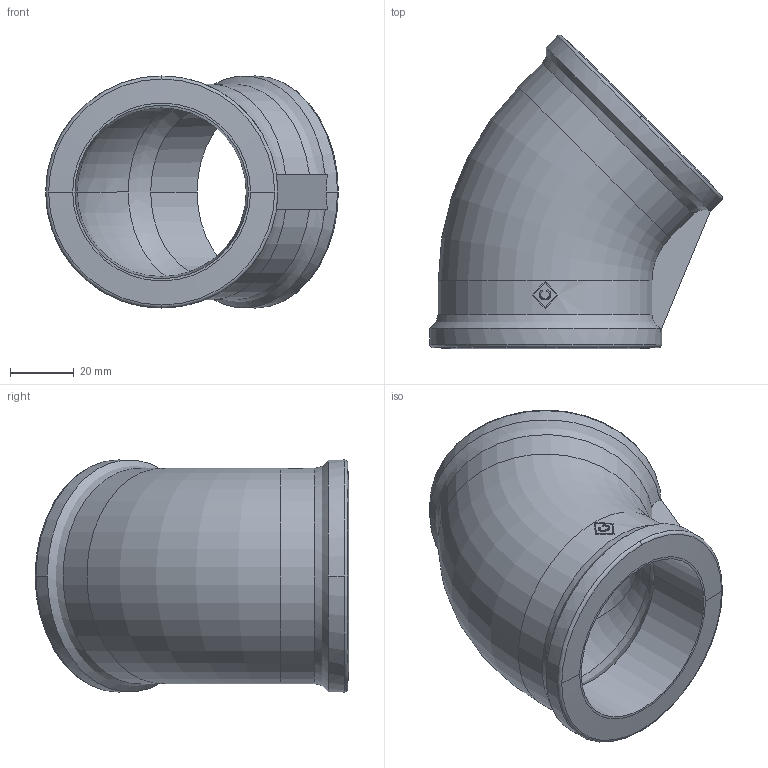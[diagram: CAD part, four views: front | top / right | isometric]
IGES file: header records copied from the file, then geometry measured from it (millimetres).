
Global section: file name: No Iges File Name specified; native system: AutoDesk Inventor R12.0; preprocessor: AutoDesk Inventor Iges Exporter R12.0; date: 20090916.110725; units: millimetre
Bounding box: 91.84 x 98.42 x 72.8 mm (x, y, z)
Volume: 104110 mm3; surface area: 37340.4 mm2
Topology: 1 solids, 1 shells, 51 faces, 138 edges, 92 vertices
Faces by surface type: plane 15, bspline 12, cylinder 9, revolution 6, torus 5, cone 4
